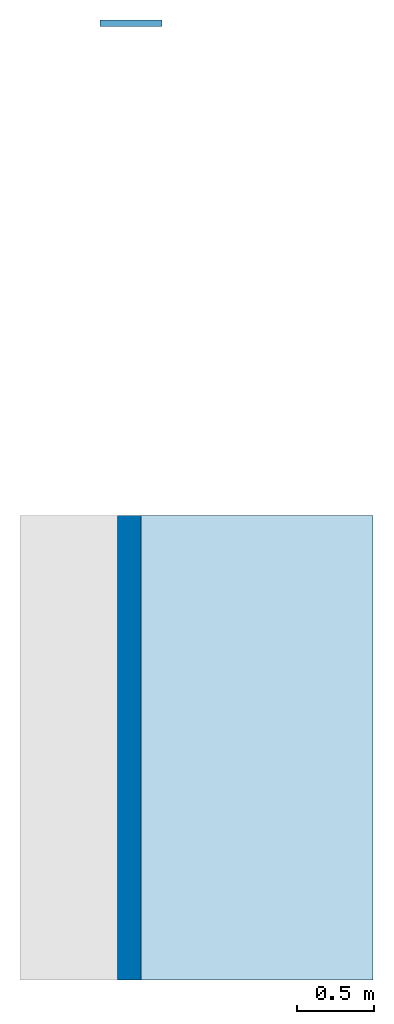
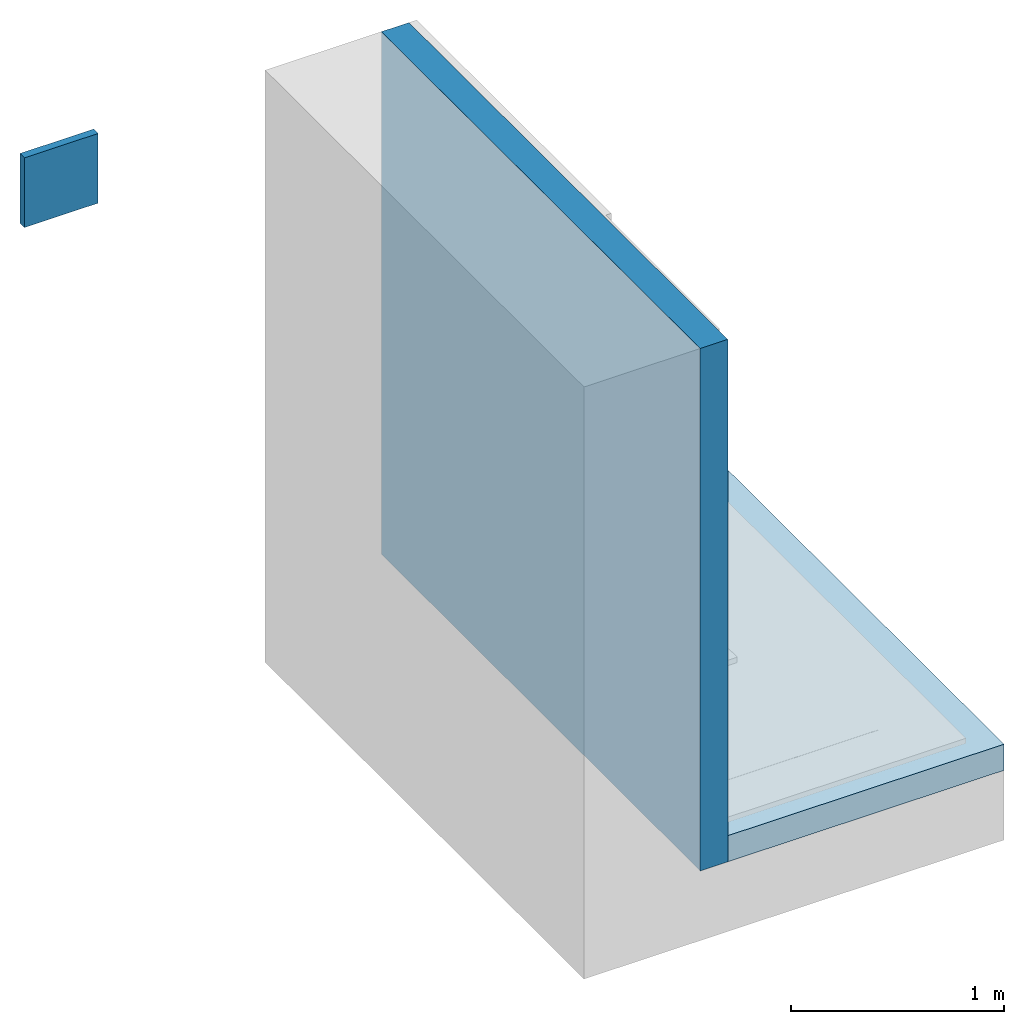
# One storey, part 1 of 2: 2 walls, 1 slab.
"""IFC2X3 building model written with IfcOpenShell, lengths in metres."""

from ifc_helpers import new_model, entity, si_unit, converted_unit, derived_unit, direction, frame, frame_2d, origin, place, context, subcontext, project, spatial, rectangle, extrude, material, layer, layer_set, layer_usage, type_object, element, save


model = new_model("IFC2X3")

# Units and contexts
model_context = context("Model", 3, precision=1e-05, world=origin(), true_north=direction((6.123031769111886e-17, 1.0)))
body_context = subcontext(model_context, "Body", "Model", "MODEL_VIEW")
ifc_project = project(units=[si_unit("LENGTHUNIT", "METRE"), si_unit("AREAUNIT", "SQUARE_METRE"), si_unit("VOLUMEUNIT", "CUBIC_METRE"), converted_unit("PLANEANGLEUNIT", "DEGREE", entity("IfcRatioMeasure", 0.017453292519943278), si_unit("PLANEANGLEUNIT", "RADIAN"), dimensions=[0, 0, 0, 0, 0, 0, 0]), si_unit("MASSUNIT", "GRAM", prefix="KILO"), derived_unit("MASSDENSITYUNIT", [(si_unit("MASSUNIT", "GRAM", prefix="KILO"), 1), (si_unit("LENGTHUNIT", "METRE"), -3)]), derived_unit("IONCONCENTRATIONUNIT", [(si_unit("MASSUNIT", "GRAM", prefix="KILO"), 1), (si_unit("LENGTHUNIT", "METRE"), -3)]), derived_unit("MOMENTOFINERTIAUNIT", [(si_unit("LENGTHUNIT", "METRE"), 4)]), si_unit("TIMEUNIT", "SECOND"), si_unit("FREQUENCYUNIT", "HERTZ"), si_unit("THERMODYNAMICTEMPERATUREUNIT", "DEGREE_CELSIUS"), derived_unit("THERMALTRANSMITTANCEUNIT", [(si_unit("MASSUNIT", "GRAM", prefix="KILO"), 1), (si_unit("THERMODYNAMICTEMPERATUREUNIT", "KELVIN"), -1), (si_unit("TIMEUNIT", "SECOND"), -3)]), derived_unit("THERMALCONDUCTANCEUNIT", [(si_unit("MASSUNIT", "GRAM", prefix="KILO"), 1), (si_unit("THERMODYNAMICTEMPERATUREUNIT", "KELVIN"), -1), (si_unit("TIMEUNIT", "SECOND"), -3), (si_unit("LENGTHUNIT", "METRE"), 1)]), derived_unit("VOLUMETRICFLOWRATEUNIT", [(si_unit("LENGTHUNIT", "METRE"), 3), (si_unit("TIMEUNIT", "SECOND"), -1)]), derived_unit("MASSFLOWRATEUNIT", [(si_unit("MASSUNIT", "GRAM", prefix="KILO"), 1), (si_unit("TIMEUNIT", "SECOND"), -1)]), derived_unit("ROTATIONALFREQUENCYUNIT", [(si_unit("TIMEUNIT", "SECOND"), -1)]), si_unit("ELECTRICCURRENTUNIT", "AMPERE"), si_unit("ELECTRICVOLTAGEUNIT", "VOLT"), si_unit("POWERUNIT", "WATT"), si_unit("FORCEUNIT", "NEWTON", prefix="KILO"), si_unit("ILLUMINANCEUNIT", "LUX"), si_unit("LUMINOUSFLUXUNIT", "LUMEN"), si_unit("LUMINOUSINTENSITYUNIT", "CANDELA"), derived_unit("USERDEFINED", [(si_unit("MASSUNIT", "GRAM", prefix="KILO"), -1), (si_unit("LENGTHUNIT", "METRE"), -2), (si_unit("TIMEUNIT", "SECOND"), 3), (si_unit("LUMINOUSFLUXUNIT", "LUMEN"), 1)]), derived_unit("USERDEFINED", [(si_unit("MASSUNIT", "GRAM", prefix="KILO"), 1), (si_unit("TIMEUNIT", "SECOND"), -3), (si_unit("LENGTHUNIT", "METRE"), 3), (si_unit("ELECTRICCURRENTUNIT", "AMPERE"), -2)]), derived_unit("SOUNDPOWERUNIT", [(si_unit("MASSUNIT", "GRAM", prefix="KILO"), 1), (si_unit("TIMEUNIT", "SECOND"), -3), (si_unit("LENGTHUNIT", "METRE"), 2)]), derived_unit("SOUNDPRESSUREUNIT", [(si_unit("MASSUNIT", "GRAM", prefix="KILO"), 1), (si_unit("LENGTHUNIT", "METRE"), -1), (si_unit("TIMEUNIT", "SECOND"), -2)]), derived_unit("LINEARVELOCITYUNIT", [(si_unit("LENGTHUNIT", "METRE"), 1), (si_unit("TIMEUNIT", "SECOND"), -1)]), si_unit("PRESSUREUNIT", "PASCAL"), derived_unit("USERDEFINED", [(si_unit("MASSUNIT", "GRAM", prefix="KILO"), 1), (si_unit("LENGTHUNIT", "METRE"), -2), (si_unit("TIMEUNIT", "SECOND"), -2)]), derived_unit("LINEARFORCEUNIT", [(si_unit("MASSUNIT", "GRAM", prefix="KILO"), 1), (si_unit("TIMEUNIT", "SECOND"), -2)]), derived_unit("PLANARFORCEUNIT", [(si_unit("MASSUNIT", "GRAM", prefix="KILO"), 1), (si_unit("LENGTHUNIT", "METRE"), -1), (si_unit("TIMEUNIT", "SECOND"), -2)]), derived_unit("SPECIFICHEATCAPACITYUNIT", [(si_unit("THERMODYNAMICTEMPERATUREUNIT", "KELVIN"), -1), (si_unit("LENGTHUNIT", "METRE"), 2), (si_unit("TIMEUNIT", "SECOND"), -2)]), derived_unit("HEATINGVALUEUNIT", [(si_unit("LENGTHUNIT", "METRE"), 2), (si_unit("TIMEUNIT", "SECOND"), -2)]), derived_unit("VAPORPERMEABILITYUNIT", [(si_unit("LENGTHUNIT", "METRE"), -1), (si_unit("TIMEUNIT", "SECOND"), 1)]), derived_unit("DYNAMICVISCOSITYUNIT", [(si_unit("MASSUNIT", "GRAM", prefix="KILO"), 1), (si_unit("TIMEUNIT", "SECOND"), -1), (si_unit("LENGTHUNIT", "METRE"), -1)]), derived_unit("THERMALEXPANSIONCOEFFICIENTUNIT", [(si_unit("THERMODYNAMICTEMPERATUREUNIT", "KELVIN"), -1)]), derived_unit("MODULUSOFELASTICITYUNIT", [(si_unit("MASSUNIT", "GRAM", prefix="KILO"), 1), (si_unit("LENGTHUNIT", "METRE"), -1), (si_unit("TIMEUNIT", "SECOND"), -2)]), derived_unit("ISOTHERMALMOISTURECAPACITYUNIT", [(si_unit("LENGTHUNIT", "METRE"), 3), (si_unit("MASSUNIT", "GRAM", prefix="KILO"), -1)]), derived_unit("MOISTUREDIFFUSIVITYUNIT", [(si_unit("TIMEUNIT", "SECOND"), -1), (si_unit("LENGTHUNIT", "METRE"), 2)])], contexts=[model_context])

# Site, building, storey
site_placement = place(None, origin())
site = spatial("IfcSite", under=ifc_project, at=site_placement, Name="Default", CompositionType="ELEMENT")
building_placement = place(site_placement, origin())
building = spatial("IfcBuilding", under=site, at=building_placement, CompositionType="ELEMENT")
storey_placement = place(building_placement, frame((0.0, 0.0, -0.0025237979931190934)))
storey = spatial("IfcBuildingStorey", under=building, at=storey_placement, Name="ARQ Térreo", CompositionType="ELEMENT", Elevation=-0.0025237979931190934)

# Slab
ifc_material_1 = material(Name="#concreto")
ifc_layer_1 = layer(ifc_material_1, 0.14999999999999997)
ifc_layer_set_1 = layer_set([ifc_layer_1], Name="Piso:Genérico 150 mm")
ifc_layer_usage_1 = layer_usage(ifc_layer_set_1, "AXIS3", "POSITIVE", 0.0)
slab_type = type_object("IfcSlabType", Name="Piso:Genérico 150 mm", PredefinedType="FLOOR", material=ifc_layer_set_1)
slab_placement = place(storey_placement, origin())
element("IfcSlab", 1, at=slab_placement, inside=storey, type_object=slab_type, material=ifc_layer_usage_1, Name="Piso:Genérico 150 mm", ObjectType="Piso:Genérico 150 mm", PredefinedType="FLOOR", context=body_context, shape_type="SweptSolid", body=[
    extrude(rectangle(XDim=3.0000000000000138, YDim=1.5000000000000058, at=frame_2d((2.220446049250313e-16, 1.1102230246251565e-16), x_axis=(1.0, 0.0))), frame((0.3980295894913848, -1.3541299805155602, 0.14999999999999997), z_axis=(0.0, 0.0, -1.0), x_axis=(0.0, 1.0, 0.0)), (0.0, 0.0, 1.0), 0.14999999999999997),
])

# Walls
ifc_layer_2 = layer(ifc_material_1, 0.14999999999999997)
ifc_layer_set_2 = layer_set([ifc_layer_2], Name="Parede básica:Parede básica:Parede Concreto")
ifc_layer_usage_2 = layer_usage(ifc_layer_set_2, "AXIS2", "NEGATIVE", 0.07499999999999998)
wall_type_1 = type_object("IfcWallType", Name="Parede básica:Parede básica:Parede Concreto", PredefinedType="STANDARD", material=ifc_layer_set_2)
wall_1_placement = place(storey_placement, frame((-0.4269704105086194, 0.14587001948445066, 0.0), z_axis=(0.0, 0.0, 1.0), x_axis=(0.0, -1.0, 0.0)))
element("IfcWallStandardCase", 2, at=wall_1_placement, inside=storey, type_object=wall_type_1, material=ifc_layer_usage_2, Name="Parede básica:Parede Concreto", ObjectType="Parede básica:Parede Concreto", context=body_context, shape_type="SweptSolid", body=[
    extrude(rectangle(XDim=2.9999999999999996, YDim=0.15000000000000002, at=frame_2d((1.4999999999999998, 0.0), x_axis=(-1.0, 0.0))), origin(), (0.0, 0.0, 1.0), 2.9999999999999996),
])
ifc_material_2 = material(Name="#Proteção Mecânica")
ifc_layer_3 = layer(ifc_material_2, 0.03)
ifc_material_3 = material(Name="#Chapisco")
ifc_layer_4 = layer(ifc_material_3, 0.0009999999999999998)
ifc_material_4 = material(Name="#VIAPLUS 1000")
ifc_layer_5 = layer(ifc_material_4, 0.0009999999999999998)
ifc_material_5 = material(Name="#Argamassa")
ifc_layer_6 = layer(ifc_material_5, 0.01)
ifc_layer_set_3 = layer_set([ifc_layer_3, ifc_layer_4, ifc_layer_5, ifc_layer_6], Name="Parede básica:IMPV_VP1000")
ifc_layer_usage_3 = layer_usage(ifc_layer_set_3, "AXIS2", "NEGATIVE", 0.021)
wall_type_2 = type_object("IfcWallType", Name="Parede básica:IMPV_VP1000", PredefinedType="STANDARD", material=ifc_layer_set_3)
wall_2_placement = place(storey_placement, frame((-0.21647245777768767, 3.325766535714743, 0.0), z_axis=(0.0, 0.0, 1.0), x_axis=(-1.0, 0.0, 0.0)))
element("IfcWallStandardCase", 3, at=wall_2_placement, inside=storey, type_object=wall_type_2, material=ifc_layer_usage_3, Name="Parede básica:IMPV_VP7000", ObjectType="Parede básica:IMPV_VP7000", context=body_context, shape_type="SweptSolid", body=[
    extrude(rectangle(XDim=0.4000000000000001, YDim=0.0420000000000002, at=frame_2d((0.20000000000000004, 1.2663481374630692e-16), x_axis=(-1.0, 0.0))), origin(), (0.0, 0.0, 1.0), 0.4),
])

save(model, "model.ifc")
